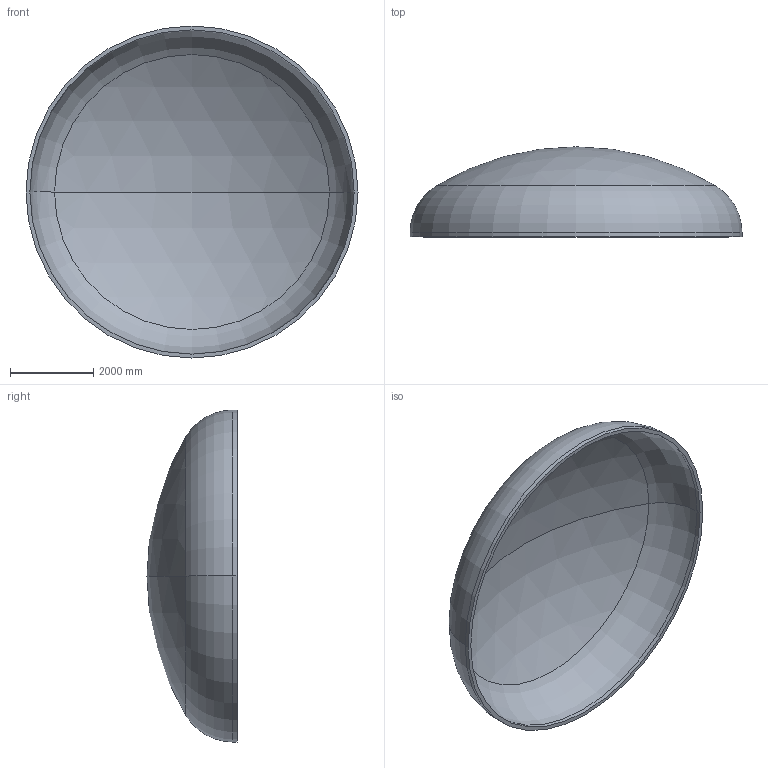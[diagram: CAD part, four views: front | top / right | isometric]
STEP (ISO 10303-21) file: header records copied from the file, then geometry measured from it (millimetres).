
FILE_DESCRIPTION (( 'STEP AP203' ), '1' );
FILE_NAME ('DIN 28013 Korbbogenform_-_Boden DIN 28013 - 8000 x 100 - I - s=94.step', '2016-07-04T11:04:47', ( '' ), ( '' ), 'SwSTEP 2.0', 'SolidWorks 2013', '' );
FILE_SCHEMA (( 'CONFIG_CONTROL_DESIGN' ));
Length unit declared in the file: millimetre
Products named in the file (1): DIN 28013 Korbbogenform_-_Boden DIN 28013 - 8000 x 100 - I - s=94
Bounding box: 8000 x 2170.44 x 8000 mm (x, y, z)
Volume: 6674526981.3 mm3; surface area: 144364382 mm2
Topology: 1 solids, 1 shells, 13 faces, 24 edges, 14 vertices
Faces by surface type: torus 4, cylinder 4, sphere 4, plane 1
Entity records: 407 total; most frequent: DIRECTION 72, CARTESIAN_POINT 52, ORIENTED_EDGE 48, AXIS2_PLACEMENT_3D 34, EDGE_CURVE 24, CIRCLE 20, EDGE_LOOP 14, VERTEX_POINT 14
